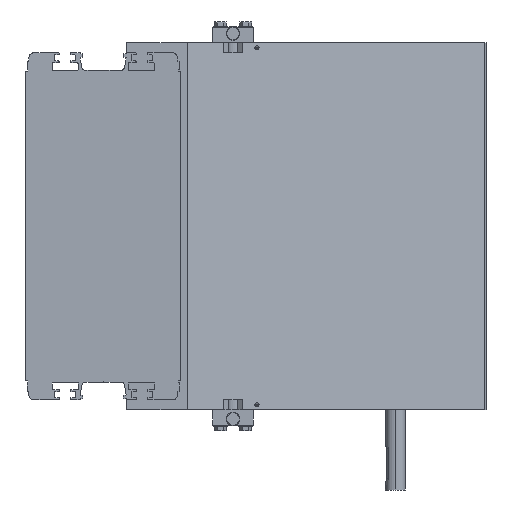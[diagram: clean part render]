
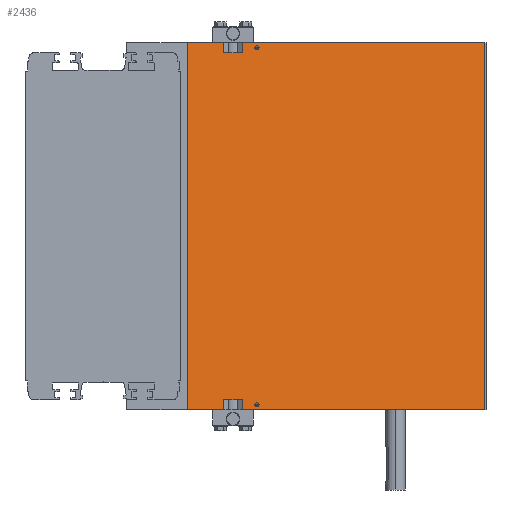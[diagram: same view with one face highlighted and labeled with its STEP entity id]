
A CAD part, left-side view. The second image highlights one B-rep face of the part: STEP entity #2436.
In plain terms, the highlighted planar face has unit normal (-0.966, -0.259, 0).
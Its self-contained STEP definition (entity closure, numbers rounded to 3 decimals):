
#186 = ORIENTED_EDGE ( 'NONE', *, *, #7904, .F. ) ;
#207 = CARTESIAN_POINT ( 'NONE',  ( -175.442, -137.33, 171. ) ) ;
#821 = AXIS2_PLACEMENT_3D ( 'NONE', #19304, #13276, #24957 ) ;
#850 = VERTEX_POINT ( 'NONE', #23745 ) ;
#1031 = CARTESIAN_POINT ( 'NONE',  ( -190., -83., 181. ) ) ;
#1168 = CARTESIAN_POINT ( 'NONE',  ( -190., -83., 181. ) ) ;
#1195 = CARTESIAN_POINT ( 'NONE',  ( -111.473, -376.068, 181. ) ) ;
#1298 = VERTEX_POINT ( 'NONE', #207 ) ;
#1334 = VERTEX_POINT ( 'NONE', #19505 ) ;
#1519 = EDGE_CURVE ( 'NONE', #22070, #15612, #19855, .T. ) ;
#1852 = VECTOR ( 'NONE', #2843, 1000. ) ;
#2352 = EDGE_CURVE ( 'NONE', #20952, #22070, #15866, .T. ) ;
#2436 = ADVANCED_FACE ( 'NONE', ( #6294, #25059, #16470 ), #15770, .F. ) ;
#2498 = CARTESIAN_POINT ( 'NONE',  ( -180.442, -118.67, 171. ) ) ;
#2521 = CARTESIAN_POINT ( 'NONE',  ( -180.442, -118.67, 171. ) ) ;
#2763 = ORIENTED_EDGE ( 'NONE', *, *, #12620, .F. ) ;
#2843 = DIRECTION ( 'NONE',  ( 0., 0., 1. ) ) ;
#3133 = CARTESIAN_POINT ( 'NONE',  ( -171.08, -153.609, 176. ) ) ;
#3201 = DIRECTION ( 'NONE',  ( -0.259, 0.966, 0. ) ) ;
#4020 = LINE ( 'NONE', #2498, #1852 ) ;
#5206 = EDGE_CURVE ( 'NONE', #850, #13179, #10194, .T. ) ;
#5931 = CARTESIAN_POINT ( 'NONE',  ( -198.022, -53.06, -171. ) ) ;
#6077 = VERTEX_POINT ( 'NONE', #11065 ) ;
#6278 = ORIENTED_EDGE ( 'NONE', *, *, #7032, .F. ) ;
#6294 = FACE_BOUND ( 'NONE', #6971, .T. ) ;
#6379 = DIRECTION ( 'NONE',  ( 0., 0., 1. ) ) ;
#6728 = DIRECTION ( 'NONE',  ( -0.259, 0.966, 0. ) ) ;
#6942 = CARTESIAN_POINT ( 'NONE',  ( -111.473, -376.068, 181. ) ) ;
#6971 = EDGE_LOOP ( 'NONE', ( #25138, #6278 ) ) ;
#7032 = EDGE_CURVE ( 'NONE', #8908, #1334, #13779, .T. ) ;
#7756 = EDGE_CURVE ( 'NONE', #14393, #6077, #20166, .T. ) ;
#7833 = DIRECTION ( 'NONE',  ( 0., 0., 1. ) ) ;
#7904 = EDGE_CURVE ( 'NONE', #13179, #22394, #10596, .T. ) ;
#7925 = CARTESIAN_POINT ( 'NONE',  ( -180.442, -118.67, -181. ) ) ;
#8014 = EDGE_CURVE ( 'NONE', #22394, #13055, #15837, .T. ) ;
#8088 = DIRECTION ( 'NONE',  ( 0.259, -0.966, 0. ) ) ;
#8193 = VERTEX_POINT ( 'NONE', #22519 ) ;
#8347 = CARTESIAN_POINT ( 'NONE',  ( -171.624, -151.581, -176. ) ) ;
#8517 = DIRECTION ( 'NONE',  ( -0.966, -0.259, 0. ) ) ;
#8908 = VERTEX_POINT ( 'NONE', #20302 ) ;
#9002 = LINE ( 'NONE', #10665, #23459 ) ;
#9385 = VECTOR ( 'NONE', #15514, 1000. ) ;
#9484 = AXIS2_PLACEMENT_3D ( 'NONE', #17315, #19729, #16024 ) ;
#9825 = DIRECTION ( 'NONE',  ( -0.259, 0.966, 0. ) ) ;
#9866 = CARTESIAN_POINT ( 'NONE',  ( -198.022, -53.06, 171. ) ) ;
#9914 = VECTOR ( 'NONE', #21245, 1000. ) ;
#10194 = LINE ( 'NONE', #19281, #9914 ) ;
#10195 = VECTOR ( 'NONE', #19747, 1000. ) ;
#10539 = AXIS2_PLACEMENT_3D ( 'NONE', #15372, #11145, #24897 ) ;
#10596 = LINE ( 'NONE', #17632, #22288 ) ;
#10665 = CARTESIAN_POINT ( 'NONE',  ( -190., -83., -181. ) ) ;
#10702 = CARTESIAN_POINT ( 'NONE',  ( -190., -83., -181. ) ) ;
#10791 = DIRECTION ( 'NONE',  ( -0.259, 0.966, 0. ) ) ;
#10925 = VECTOR ( 'NONE', #7833, 1000. ) ;
#11065 = CARTESIAN_POINT ( 'NONE',  ( -172.167, -149.552, 176. ) ) ;
#11145 = DIRECTION ( 'NONE',  ( -0.966, -0.259, 0. ) ) ;
#11834 = VERTEX_POINT ( 'NONE', #2521 ) ;
#12333 = LINE ( 'NONE', #9866, #10195 ) ;
#12371 = DIRECTION ( 'NONE',  ( 0.259, -0.966, 0. ) ) ;
#12450 = EDGE_LOOP ( 'NONE', ( #186, #23902, #25249, #14805, #15064, #18899, #22647, #2763, #16152, #25292, #18423, #19589 ) ) ;
#12502 = EDGE_CURVE ( 'NONE', #1334, #8908, #13088, .T. ) ;
#12620 = EDGE_CURVE ( 'NONE', #1298, #15612, #19542, .T. ) ;
#13055 = VERTEX_POINT ( 'NONE', #1168 ) ;
#13088 = CIRCLE ( 'NONE', #821, 2.1 ) ;
#13179 = VERTEX_POINT ( 'NONE', #7925 ) ;
#13276 = DIRECTION ( 'NONE',  ( -0.966, -0.259, 0. ) ) ;
#13370 = VECTOR ( 'NONE', #8088, 1000. ) ;
#13779 = CIRCLE ( 'NONE', #15754, 2.1 ) ;
#14157 = VECTOR ( 'NONE', #3201, 1000. ) ;
#14393 = VERTEX_POINT ( 'NONE', #3133 ) ;
#14638 = VECTOR ( 'NONE', #10791, 1000. ) ;
#14805 = ORIENTED_EDGE ( 'NONE', *, *, #25199, .T. ) ;
#14942 = CARTESIAN_POINT ( 'NONE',  ( -175.442, -137.33, -171. ) ) ;
#15022 = CARTESIAN_POINT ( 'NONE',  ( -175.442, -137.33, 171. ) ) ;
#15064 = ORIENTED_EDGE ( 'NONE', *, *, #17225, .F. ) ;
#15372 = CARTESIAN_POINT ( 'NONE',  ( -171.624, -151.581, 176. ) ) ;
#15514 = DIRECTION ( 'NONE',  ( 0., 0., 1. ) ) ;
#15612 = VERTEX_POINT ( 'NONE', #17621 ) ;
#15754 = AXIS2_PLACEMENT_3D ( 'NONE', #8347, #8517, #12371 ) ;
#15770 = PLANE ( 'NONE',  #9484 ) ;
#15837 = LINE ( 'NONE', #19883, #18285 ) ;
#15866 = LINE ( 'NONE', #6942, #10925 ) ;
#16024 = DIRECTION ( 'NONE',  ( -0.259, 0.966, 0. ) ) ;
#16045 = VERTEX_POINT ( 'NONE', #20798 ) ;
#16152 = ORIENTED_EDGE ( 'NONE', *, *, #21673, .F. ) ;
#16470 = FACE_OUTER_BOUND ( 'NONE', #12450, .T. ) ;
#16799 = ORIENTED_EDGE ( 'NONE', *, *, #21528, .F. ) ;
#17215 = DIRECTION ( 'NONE',  ( -0.966, -0.259, 0. ) ) ;
#17225 = EDGE_CURVE ( 'NONE', #20952, #21479, #9002, .T. ) ;
#17302 = CARTESIAN_POINT ( 'NONE',  ( -171.624, -151.581, 176. ) ) ;
#17311 = CIRCLE ( 'NONE', #10539, 2.1 ) ;
#17315 = CARTESIAN_POINT ( 'NONE',  ( -190., -83., -181. ) ) ;
#17621 = CARTESIAN_POINT ( 'NONE',  ( -175.442, -137.33, 181. ) ) ;
#17632 = CARTESIAN_POINT ( 'NONE',  ( -190., -83., -181. ) ) ;
#18285 = VECTOR ( 'NONE', #6379, 1000. ) ;
#18423 = ORIENTED_EDGE ( 'NONE', *, *, #22416, .T. ) ;
#18899 = ORIENTED_EDGE ( 'NONE', *, *, #2352, .T. ) ;
#19281 = CARTESIAN_POINT ( 'NONE',  ( -180.442, -118.67, -171. ) ) ;
#19304 = CARTESIAN_POINT ( 'NONE',  ( -171.624, -151.581, -176. ) ) ;
#19378 = LINE ( 'NONE', #1031, #14157 ) ;
#19505 = CARTESIAN_POINT ( 'NONE',  ( -171.08, -153.609, -176. ) ) ;
#19542 = LINE ( 'NONE', #15022, #9385 ) ;
#19589 = ORIENTED_EDGE ( 'NONE', *, *, #8014, .F. ) ;
#19729 = DIRECTION ( 'NONE',  ( 0.966, 0.259, 0. ) ) ;
#19747 = DIRECTION ( 'NONE',  ( 0.259, -0.966, 0. ) ) ;
#19855 = LINE ( 'NONE', #24456, #14638 ) ;
#19883 = CARTESIAN_POINT ( 'NONE',  ( -190., -83., -181. ) ) ;
#20068 = EDGE_CURVE ( 'NONE', #850, #16045, #22264, .T. ) ;
#20166 = CIRCLE ( 'NONE', #25287, 2.1 ) ;
#20302 = CARTESIAN_POINT ( 'NONE',  ( -172.167, -149.552, -176. ) ) ;
#20500 = EDGE_LOOP ( 'NONE', ( #22622, #16799 ) ) ;
#20798 = CARTESIAN_POINT ( 'NONE',  ( -175.442, -137.33, -171. ) ) ;
#20860 = DIRECTION ( 'NONE',  ( 0., 0., -1. ) ) ;
#20952 = VERTEX_POINT ( 'NONE', #23287 ) ;
#21245 = DIRECTION ( 'NONE',  ( 0., 0., -1. ) ) ;
#21479 = VERTEX_POINT ( 'NONE', #22997 ) ;
#21528 = EDGE_CURVE ( 'NONE', #6077, #14393, #17311, .T. ) ;
#21673 = EDGE_CURVE ( 'NONE', #11834, #1298, #12333, .T. ) ;
#21855 = EDGE_CURVE ( 'NONE', #11834, #8193, #4020, .T. ) ;
#22070 = VERTEX_POINT ( 'NONE', #1195 ) ;
#22264 = LINE ( 'NONE', #5931, #13370 ) ;
#22288 = VECTOR ( 'NONE', #9825, 1000. ) ;
#22394 = VERTEX_POINT ( 'NONE', #10702 ) ;
#22416 = EDGE_CURVE ( 'NONE', #8193, #13055, #19378, .T. ) ;
#22519 = CARTESIAN_POINT ( 'NONE',  ( -180.442, -118.67, 181. ) ) ;
#22622 = ORIENTED_EDGE ( 'NONE', *, *, #7756, .F. ) ;
#22647 = ORIENTED_EDGE ( 'NONE', *, *, #1519, .T. ) ;
#22955 = DIRECTION ( 'NONE',  ( 0.259, -0.966, 0. ) ) ;
#22997 = CARTESIAN_POINT ( 'NONE',  ( -175.442, -137.33, -181. ) ) ;
#23287 = CARTESIAN_POINT ( 'NONE',  ( -111.473, -376.068, -181. ) ) ;
#23354 = VECTOR ( 'NONE', #20860, 1000. ) ;
#23459 = VECTOR ( 'NONE', #6728, 1000. ) ;
#23745 = CARTESIAN_POINT ( 'NONE',  ( -180.442, -118.67, -171. ) ) ;
#23902 = ORIENTED_EDGE ( 'NONE', *, *, #5206, .F. ) ;
#24456 = CARTESIAN_POINT ( 'NONE',  ( -190., -83., 181. ) ) ;
#24885 = LINE ( 'NONE', #14942, #23354 ) ;
#24897 = DIRECTION ( 'NONE',  ( 0.259, -0.966, 0. ) ) ;
#24957 = DIRECTION ( 'NONE',  ( 0.259, -0.966, 0. ) ) ;
#25059 = FACE_BOUND ( 'NONE', #20500, .T. ) ;
#25138 = ORIENTED_EDGE ( 'NONE', *, *, #12502, .F. ) ;
#25199 = EDGE_CURVE ( 'NONE', #16045, #21479, #24885, .T. ) ;
#25249 = ORIENTED_EDGE ( 'NONE', *, *, #20068, .T. ) ;
#25287 = AXIS2_PLACEMENT_3D ( 'NONE', #17302, #17215, #22955 ) ;
#25292 = ORIENTED_EDGE ( 'NONE', *, *, #21855, .T. ) ;
